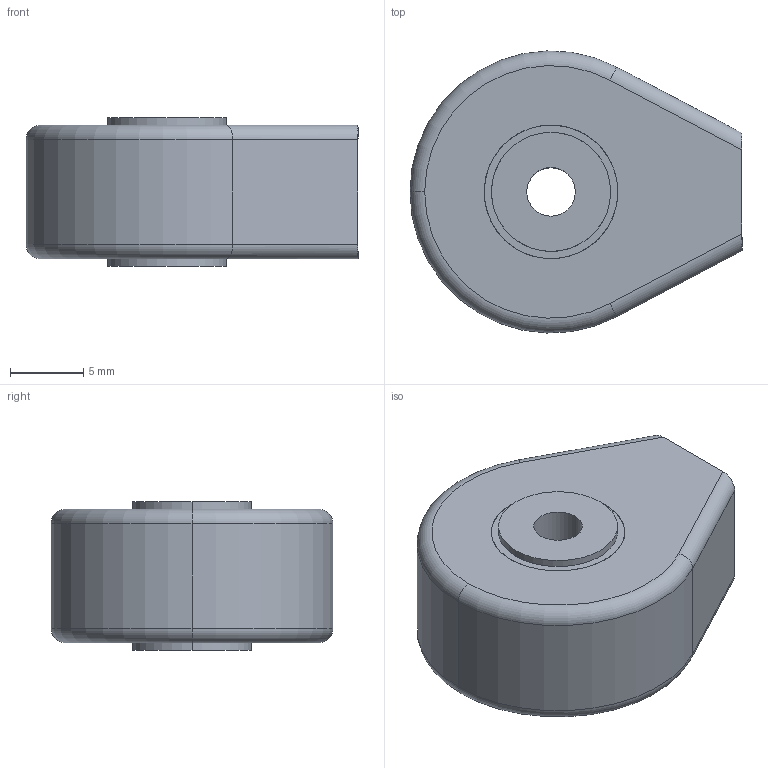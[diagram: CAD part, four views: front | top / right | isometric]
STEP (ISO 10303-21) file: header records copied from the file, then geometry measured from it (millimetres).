
FILE_DESCRIPTION (( 'STEP AP203' ), '1' );
FILE_NAME ('DW-TRHT03-XXXX Triggy HT03.STEP', '2022-02-25T15:29:24', ( '' ), ( '' ), 'SwSTEP 2.0', 'SolidWorks 2021', '' );
FILE_SCHEMA (( 'CONFIG_CONTROL_DESIGN' ));
Length unit declared in the file: millimetre
Products named in the file (4): DW-TRHT03-XXXX Triggy HT03; DW-TRENXX-XXXX- ENTRETOISE SIMPLIFIEE_HT03; DW-TRENXX-0000-Enrobage simplifie TRIGGYS_HT03; DW-TRBAXX-XXXX- BAGUE SIMPLIFIEE_HT03
Assembly tree (3 placements, depth 2):
  DW-TRHT03-XXXX Triggy HT03
    DW-TRENXX-XXXX- ENTRETOISE SIMPLIFIEE_HT03
    DW-TRBAXX-XXXX- BAGUE SIMPLIFIEE_HT03
    DW-TRENXX-0000-Enrobage simplifie TRIGGYS_HT03
Bounding box: 22.6 x 19.19 x 10.1 mm (x, y, z)
Volume: 2980.6 mm3; surface area: 2321.1 mm2
Topology: 3 solids, 3 shells, 205 faces, 546 edges, 362 vertices
Faces by surface type: bspline 97, plane 88, cylinder 16, torus 4
Entity records: 7477 total; most frequent: CARTESIAN_POINT 2609, ORIENTED_EDGE 1092, DIRECTION 603, EDGE_CURVE 546, VERTEX_POINT 362, VECTOR 307, LINE 307, EDGE_LOOP 226
